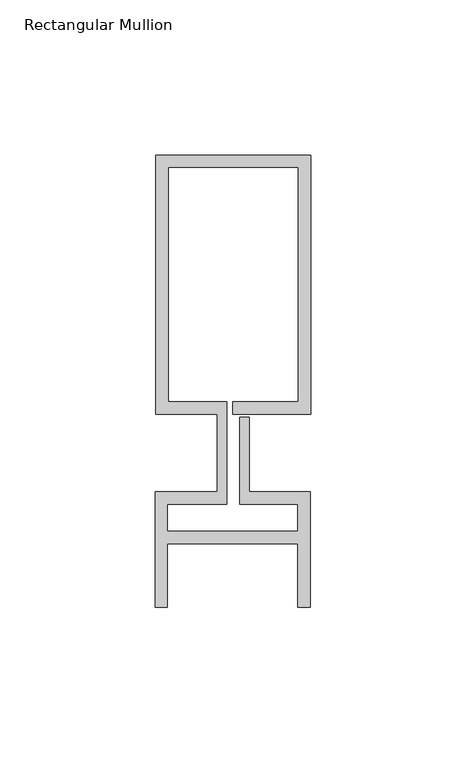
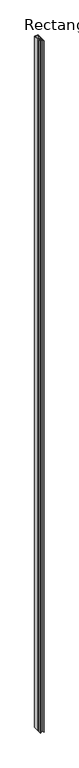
"""IFC4 building model written with IfcOpenShell, lengths in millimetres: member geometry, Rectangular Mullion : Reynaers_CW-50_Mullion-Transom_Vertical_83.5mm_Facecap-03."""

from ifc_helpers import new_model, si_unit, frame, origin, place, context, project, spatial, polyline, outline, extrude, source, transform, mapped, element, save


def rectangular_mullion_2c5b71e2(model_context):
    return source(origin(), model_context, "Body", "SweptSolid", [
        extrude(outline(polyline([(-24.8004059, 96.0), (25.1995941, 96.0), (25.1995941, 12.5), (0.0, 12.5), (0.0, 16.5), (21.1995941, 16.5), (21.1995941, 92.0), (-20.8004059, 92.0), (-20.8004059, 16.5), (-1.9004059, 16.5), (-1.9004059, -16.5), (-20.994845, -16.5), (-20.994845, -25.3268728), (20.994845, -25.3268728), (20.994845, -16.5), (2.2995941, -16.5), (2.2995941, 11.5), (5.2995941, 11.5), (5.2995941, -12.5), (24.994845, -12.5), (24.994845, -49.8), (20.994845, -49.8), (20.994845, -29.3268728), (-20.994845, -29.3268728), (-20.994845, -49.8), (-24.994845, -49.8), (-24.994845, -12.5), (-4.9004059, -12.5), (-4.9004059, 12.5), (-24.8004059, 12.5), (-24.8004059, 96.0)])), frame((0.0, 0.0, -10400.0), z_axis=(0.0, 0.0, 1.0), x_axis=(1.0, 0.0, 0.0)), (0.0, 0.0, 1.0), 10400.0),
    ])


if __name__ == "__main__":
    model = new_model("IFC4")
    model_context = context("Model", 3, world=origin())
    ifc_project = project(units=[si_unit("LENGTHUNIT", "METRE", prefix="MILLI")], contexts=[model_context])
    site = spatial("IfcSite", under=ifc_project)
    building = spatial("IfcBuilding", under=site)
    placement = place(None, origin())
    rectangular_mullion_shape = rectangular_mullion_2c5b71e2(model_context)
    element("IfcMember", 1, ObjectType="Rectangular Mullion : Reynaers_CW-50_Mullion-Transom_Vertical_83.5mm_Facecap-03", at=placement, inside=building, context=model_context, shape_type="MappedRepresentation", body=[
        mapped(rectangular_mullion_shape, transform((0.0, 0.0, 0.0), x_axis=(1.0, 0.0, 0.0), y_axis=(0.0, 1.0, 0.0), z_axis=(0.0, 0.0, 1.0))),
    ])
    save(model, "model.ifc")
